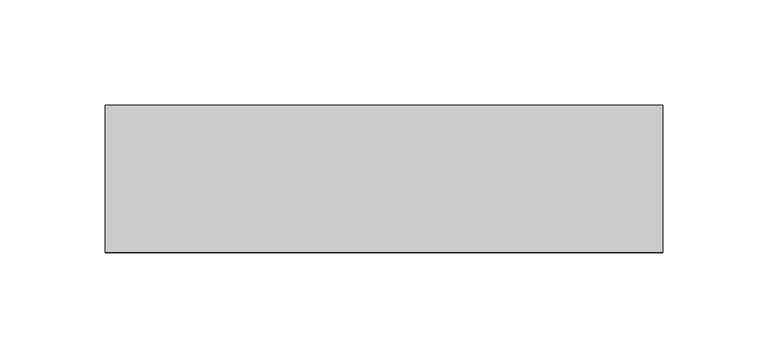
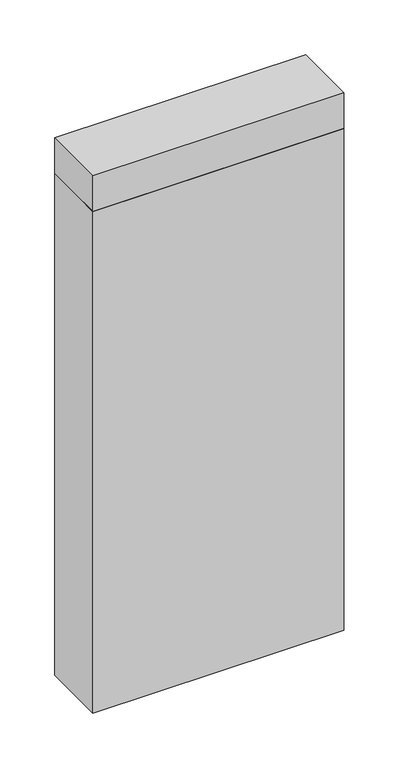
"""IFC4 building model written with IfcOpenShell, lengths in millimetres: plate geometry, 営_パーティションパネル_上部 : パーティションパネル_上部."""

from ifc_helpers import new_model, si_unit, frame, origin, origin_with_axes, place, context, project, spatial, polyline, outline, extrude, source, transform, mapped, element, save


def plate_43aaac86(model_context):
    return source(origin(), model_context, "Body", "SweptSolid", [
        extrude(outline(polyline([(-132.4999998, -35.0), (-132.4999998, 35.0), (132.4999998, 35.0), (132.4999998, -35.0), (-132.4999998, -35.0)])), origin_with_axes(), (0.0, 0.0, 1.0), 560.0),
        extrude(outline(polyline([(-132.4999998, -35.0), (-132.4999998, 35.0), (132.4999998, 35.0), (132.4999998, -35.0), (-132.4999998, -35.0)])), frame((0.0, 0.0, 560.0), z_axis=(0.0, 0.0, 1.0), x_axis=(1.0, 0.0, 0.0)), (0.0, 0.0, 1.0), 40.0),
    ])


if __name__ == "__main__":
    model = new_model("IFC4")
    model_context = context("Model", 3, world=origin())
    ifc_project = project(units=[si_unit("LENGTHUNIT", "METRE", prefix="MILLI")], contexts=[model_context])
    site = spatial("IfcSite", under=ifc_project)
    building = spatial("IfcBuilding", under=site)
    placement = place(None, origin())
    plate_shape = plate_43aaac86(model_context)
    element("IfcPlate", 1, ObjectType="営_パーティションパネル_上部 : パーティションパネル_上部", at=placement, inside=building, context=model_context, shape_type="MappedRepresentation", body=[
        mapped(plate_shape, transform((0.0, 0.0, 0.0), x_axis=(1.0, 0.0, 0.0), y_axis=(0.0, 1.0, 0.0), z_axis=(0.0, 0.0, 1.0))),
    ])
    save(model, "model.ifc")
